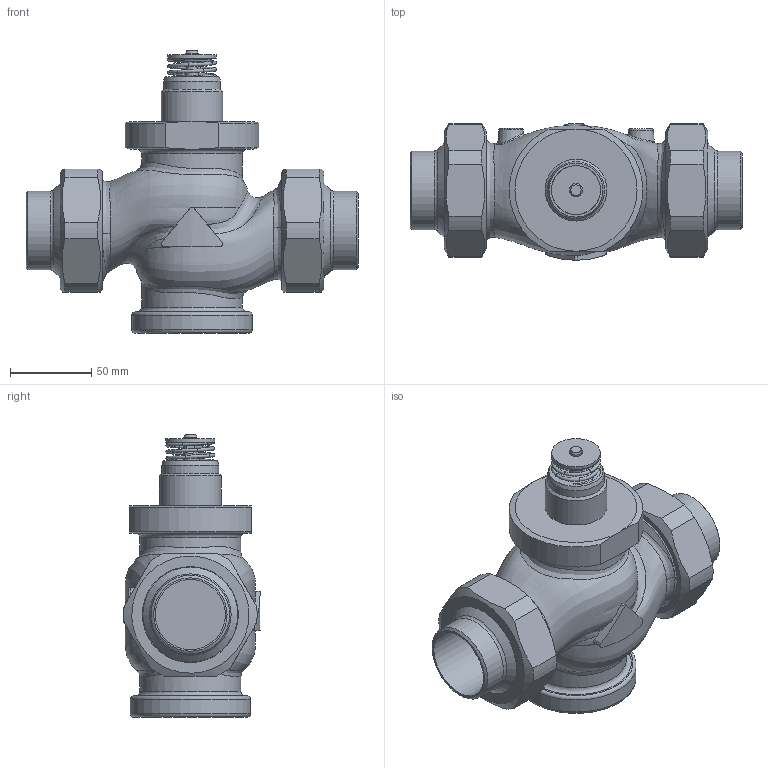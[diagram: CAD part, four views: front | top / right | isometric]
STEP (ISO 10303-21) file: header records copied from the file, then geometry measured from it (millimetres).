
FILE_DESCRIPTION(/* description */ (''),/* implementation_level */ '2;1');
FILE_NAME(/* name */ 'rv122r_dn40_W.stp',/* time_stamp */ '2012-05-31T13:49:24+02:00',/* author */ ('KLIMES'),/* organization */ ('LDM'),/* preprocessor_version */ 'ST-DEVELOPER v11',/* originating_system */ 'SIEMENS PLM Software NX 7.0',/* authorisation */ '');
FILE_SCHEMA (('CONFIG_CONTROL_DESIGN'));
Length unit declared in the file: millimetre
Products named in the file (1): klim104Evod9
Bounding box: 204 x 83.98 x 173.4 mm (x, y, z)
Volume: 144153 mm3; surface area: 125998.7 mm2
Topology: 6 solids, 7 shells, 174 faces, 407 edges, 261 vertices
Faces by surface type: plane 55, cylinder 49, cone 28, torus 28, bspline 14
Full cylindrical faces by diameter (mm): 8 x2, 24.5 x1, 30 x1, 35 x1, 38 x1, 43.1 x2, 48.3 x2, 50 x2, 58.5 x2, 59 x2, 62 x4, 62.5 x2, 62.752 x2, 65.71 x2, 74 x1
Entity records: 12626 total; most frequent: CARTESIAN_POINT 9243, DIRECTION 669, ORIENTED_EDGE 570, AXIS2_PLACEMENT_3D 309, EDGE_CURVE 285, EDGE_LOOP 279, VERTEX_POINT 220, FACE_BOUND 208
